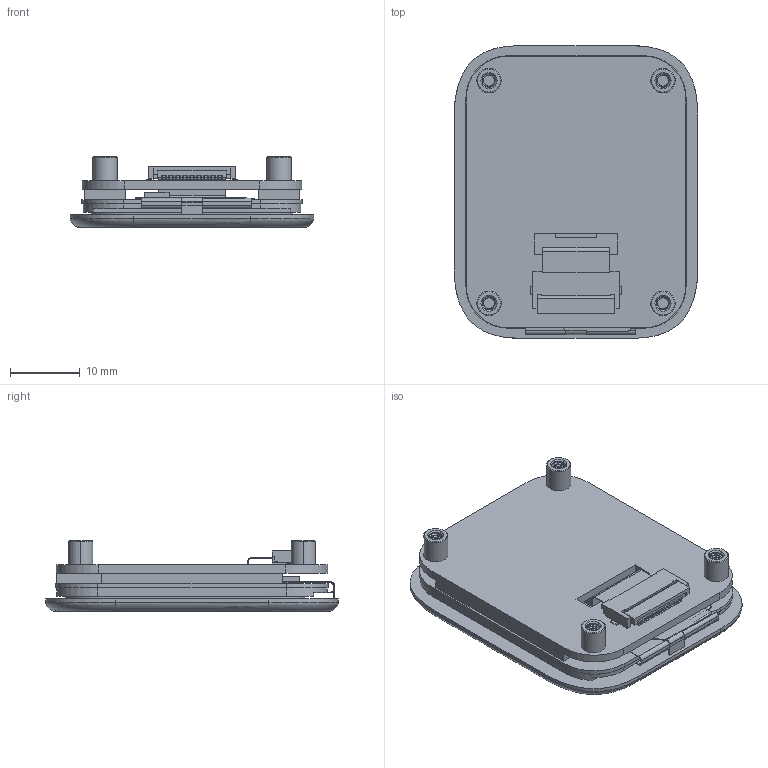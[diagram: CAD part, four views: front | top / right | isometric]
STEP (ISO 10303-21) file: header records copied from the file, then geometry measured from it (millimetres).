
FILE_DESCRIPTION((''),'2;1');
FILE_NAME('1_83INCH-TOUCH-LCD-MODULE_ASM','2026-02-11T14:22:46',('ag'),(''),'CREO PARAMETRIC BY PTC INC, 2021063','CREO PARAMETRIC BY PTC INC, 2021063','');
FILE_SCHEMA(('CONFIG_CONTROL_DESIGN','SHAPE_APPEARANCE_LAYERS_GROUPS'));
Length unit declared in the file: millimetre
Products named in the file (9): YC630-1_83-LCD; YC630-1_83-TP; YC630-1_83-LCD_ASM; 00; PCB; SMTSO-M2X3_5X3_5ET-2X1_2; FPC-18P; 1_83INCH-TOUCH-LCD-MODULE-PCB_ASM; 1_83INCH-TOUCH-LCD-MODULE_ASM
Assembly tree (11 placements, depth 3):
  1_83INCH-TOUCH-LCD-MODULE_ASM
    YC630-1_83-LCD_ASM
      YC630-1_83-LCD
      YC630-1_83-TP
    00
    1_83INCH-TOUCH-LCD-MODULE-PCB_ASM
      PCB
      SMTSO-M2X3_5X3_5ET-2X1_2  x4
      FPC-18P
Bounding box: 35 x 42 x 10.2 mm (x, y, z)
Volume: 7223.4 mm3; surface area: 11110.6 mm2
Topology: 11 solids, 11 shells, 1575 faces, 4348 edges, 2835 vertices
Faces by surface type: plane 1372, cylinder 159, bspline 20, cone 16, extrusion 8
Entity records: 53561 total; most frequent: CARTESIAN_POINT 12169, ORIENTED_EDGE 8270, DIRECTION 7323, EDGE_CURVE 4135, VECTOR 3855, LINE 3847, VERTEX_POINT 2700, AXIS2_PLACEMENT_3D 1734
